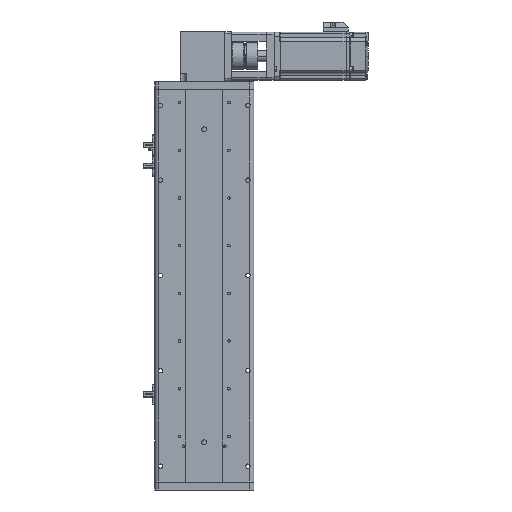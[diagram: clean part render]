
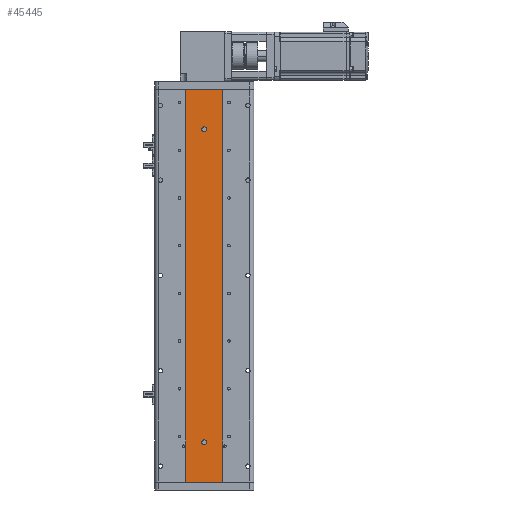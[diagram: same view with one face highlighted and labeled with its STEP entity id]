
A CAD part, front view. The second image highlights one B-rep face of the part: STEP entity #45445.
In plain terms, the highlighted planar face has unit normal (0, -1, 0).
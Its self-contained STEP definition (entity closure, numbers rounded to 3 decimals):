
#1513 = EDGE_CURVE ( 'NONE', #49894, #40670, #14905, .T. ) ;
#1863 = CARTESIAN_POINT ( 'NONE',  ( 0., 1., 197. ) ) ;
#2415 = CARTESIAN_POINT ( 'NONE',  ( 23., 1., 247.001 ) ) ;
#4201 = EDGE_CURVE ( 'NONE', #25930, #34467, #15634, .T. ) ;
#4632 = ORIENTED_EDGE ( 'NONE', *, *, #55800, .T. ) ;
#4724 = AXIS2_PLACEMENT_3D ( 'NONE', #42715, #15495, #47278 ) ;
#6393 = DIRECTION ( 'NONE',  ( 0., 0., -1. ) ) ;
#8595 = EDGE_LOOP ( 'NONE', ( #54398, #12158 ) ) ;
#9320 = VECTOR ( 'NONE', #13530, 1000. ) ;
#10630 = CARTESIAN_POINT ( 'NONE',  ( 23., 1., 247.001 ) ) ;
#10640 = LINE ( 'NONE', #32605, #57551 ) ;
#10906 = ORIENTED_EDGE ( 'NONE', *, *, #1513, .F. ) ;
#11437 = DIRECTION ( 'NONE',  ( 0., -1., 0. ) ) ;
#11715 = DIRECTION ( 'NONE',  ( 0., -1., 0. ) ) ;
#12158 = ORIENTED_EDGE ( 'NONE', *, *, #4201, .F. ) ;
#13069 = VERTEX_POINT ( 'NONE', #32550 ) ;
#13166 = EDGE_CURVE ( 'NONE', #20273, #39951, #43071, .T. ) ;
#13516 = EDGE_LOOP ( 'NONE', ( #4632, #26572, #32732, #26569 ) ) ;
#13530 = DIRECTION ( 'NONE',  ( 0., 0., -1. ) ) ;
#14500 = DIRECTION ( 'NONE',  ( 1., 0., 0. ) ) ;
#14905 = CIRCLE ( 'NONE', #33887, 3. ) ;
#15495 = DIRECTION ( 'NONE',  ( 0., -1., 0. ) ) ;
#15634 = CIRCLE ( 'NONE', #4724, 3. ) ;
#15951 = FACE_BOUND ( 'NONE', #8595, .T. ) ;
#16072 = DIRECTION ( 'NONE',  ( 0., 0., 1. ) ) ;
#16370 = AXIS2_PLACEMENT_3D ( 'NONE', #38695, #11437, #43239 ) ;
#16983 = CARTESIAN_POINT ( 'NONE',  ( 23., 1., -247. ) ) ;
#17561 = EDGE_CURVE ( 'NONE', #34467, #25930, #23739, .T. ) ;
#20273 = VERTEX_POINT ( 'NONE', #25403 ) ;
#22108 = EDGE_LOOP ( 'NONE', ( #10906, #24876 ) ) ;
#23739 = CIRCLE ( 'NONE', #30769, 3. ) ;
#24876 = ORIENTED_EDGE ( 'NONE', *, *, #39104, .F. ) ;
#25403 = CARTESIAN_POINT ( 'NONE',  ( 23., 1., 247. ) ) ;
#25930 = VERTEX_POINT ( 'NONE', #33075 ) ;
#26569 = ORIENTED_EDGE ( 'NONE', *, *, #33367, .F. ) ;
#26572 = ORIENTED_EDGE ( 'NONE', *, *, #42474, .T. ) ;
#28075 = FACE_OUTER_BOUND ( 'NONE', #13516, .T. ) ;
#28297 = CARTESIAN_POINT ( 'NONE',  ( 23., 1., -247. ) ) ;
#30711 = DIRECTION ( 'NONE',  ( 1., 0., 0. ) ) ;
#30769 = AXIS2_PLACEMENT_3D ( 'NONE', #38980, #11715, #43517 ) ;
#31586 = LINE ( 'NONE', #16983, #52880 ) ;
#32550 = CARTESIAN_POINT ( 'NONE',  ( -23., 1., 247. ) ) ;
#32605 = CARTESIAN_POINT ( 'NONE',  ( 23., 1., 247. ) ) ;
#32732 = ORIENTED_EDGE ( 'NONE', *, *, #13166, .F. ) ;
#32784 = AXIS2_PLACEMENT_3D ( 'NONE', #2415, #43269, #16072 ) ;
#33045 = CARTESIAN_POINT ( 'NONE',  ( 0., 1., -200. ) ) ;
#33075 = CARTESIAN_POINT ( 'NONE',  ( 0., 1., -194. ) ) ;
#33329 = DIRECTION ( 'NONE',  ( 0., 0., -1. ) ) ;
#33367 = EDGE_CURVE ( 'NONE', #13069, #20273, #10640, .T. ) ;
#33506 = LINE ( 'NONE', #45327, #9320 ) ;
#33622 = DIRECTION ( 'NONE',  ( 0., -1., 0. ) ) ;
#33887 = AXIS2_PLACEMENT_3D ( 'NONE', #1863, #33622, #6393 ) ;
#34467 = VERTEX_POINT ( 'NONE', #33045 ) ;
#34836 = CARTESIAN_POINT ( 'NONE',  ( 0., 1., 200. ) ) ;
#36465 = VERTEX_POINT ( 'NONE', #41714 ) ;
#36603 = CIRCLE ( 'NONE', #16370, 3. ) ;
#38695 = CARTESIAN_POINT ( 'NONE',  ( 0., 1., 197. ) ) ;
#38727 = PLANE ( 'NONE',  #32784 ) ;
#38980 = CARTESIAN_POINT ( 'NONE',  ( 0., 1., -197. ) ) ;
#39104 = EDGE_CURVE ( 'NONE', #40670, #49894, #36603, .T. ) ;
#39951 = VERTEX_POINT ( 'NONE', #28297 ) ;
#40140 = FACE_BOUND ( 'NONE', #22108, .T. ) ;
#40248 = VECTOR ( 'NONE', #33329, 1000. ) ;
#40670 = VERTEX_POINT ( 'NONE', #34836 ) ;
#41714 = CARTESIAN_POINT ( 'NONE',  ( -23., 1., -247. ) ) ;
#42474 = EDGE_CURVE ( 'NONE', #36465, #39951, #31586, .T. ) ;
#42715 = CARTESIAN_POINT ( 'NONE',  ( 0., 1., -197. ) ) ;
#43071 = LINE ( 'NONE', #10630, #40248 ) ;
#43239 = DIRECTION ( 'NONE',  ( 0., 0., -1. ) ) ;
#43269 = DIRECTION ( 'NONE',  ( 0., 1., 0. ) ) ;
#43517 = DIRECTION ( 'NONE',  ( 0., 0., -1. ) ) ;
#45327 = CARTESIAN_POINT ( 'NONE',  ( -23., 1., 247.001 ) ) ;
#45445 = ADVANCED_FACE ( 'NONE', ( #40140, #15951, #28075 ), #38727, .F. ) ;
#47278 = DIRECTION ( 'NONE',  ( 0., 0., -1. ) ) ;
#49894 = VERTEX_POINT ( 'NONE', #55625 ) ;
#52880 = VECTOR ( 'NONE', #30711, 1000. ) ;
#54398 = ORIENTED_EDGE ( 'NONE', *, *, #17561, .F. ) ;
#55625 = CARTESIAN_POINT ( 'NONE',  ( 0., 1., 194. ) ) ;
#55800 = EDGE_CURVE ( 'NONE', #13069, #36465, #33506, .T. ) ;
#57551 = VECTOR ( 'NONE', #14500, 1000. ) ;
